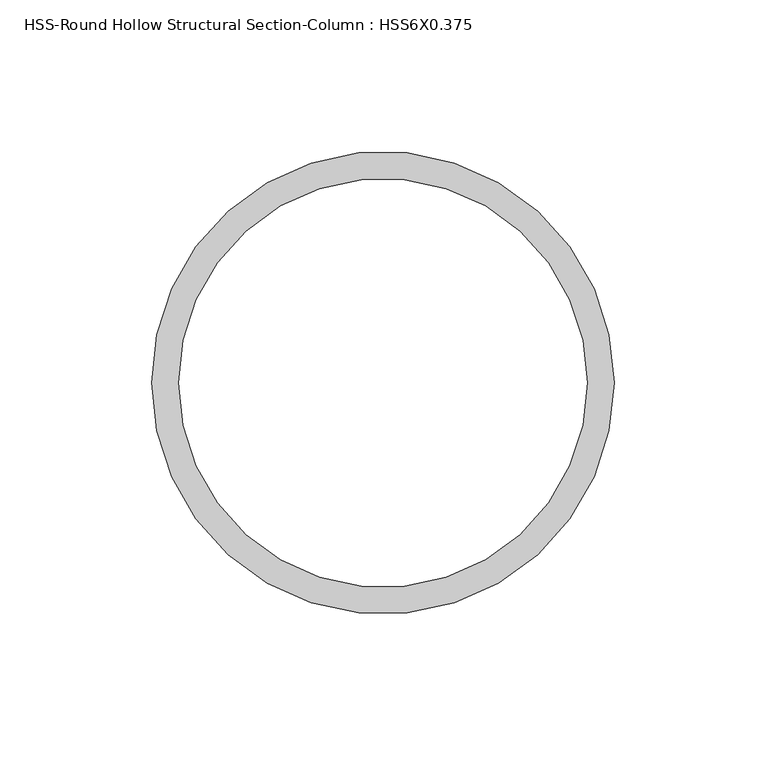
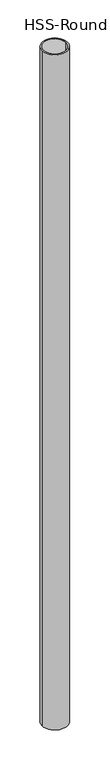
"""IFC4 building model written with IfcOpenShell, lengths in millimetres: column geometry, HSS-Round Hollow Structural Section-Column : HSS6X0.375."""

from ifc_helpers import new_model, si_unit, point, frame, origin, origin_2d, place, context, project, spatial, circle_curve, trimmed, segment, composite_curve, outline, extrude, source, transform, mapped, element, save


def hss_round_hollow_structural_section_column_hss6x0_375_0e3342be(model_context):
    return source(origin(), model_context, "Body", "SweptSolid", [
        extrude(outline(composite_curve([segment(trimmed(circle_curve(origin_2d(), 76.2), [point((-76.2, 0.0))], [point((76.2, 0.0))], False, "CARTESIAN"), True, "CONTINUOUS"), segment(trimmed(circle_curve(origin_2d(), 76.2), [point((76.2, 0.0))], [point((-76.2, 0.0))], False, "CARTESIAN"), True, "CONTINUOUS")], self_intersect=False), holes=[composite_curve([segment(trimmed(circle_curve(origin_2d(), 67.3354), [point((-67.3354, 0.0))], [point((67.3354, 0.0))], True, "CARTESIAN"), True, "CONTINUOUS"), segment(trimmed(circle_curve(origin_2d(), 67.3354), [point((67.3354, 0.0))], [point((-67.3354, 0.0))], True, "CARTESIAN"), True, "CONTINUOUS")], self_intersect=False)]), frame((0.0, 0.0, 45110.4), z_axis=(0.0, 0.0, 1.0), x_axis=(1.0, 0.0, 0.0)), (0.0, 0.0, 1.0), 4267.6),
    ])


if __name__ == "__main__":
    model = new_model("IFC4")
    model_context = context("Model", 3, world=origin())
    ifc_project = project(units=[si_unit("LENGTHUNIT", "METRE", prefix="MILLI")], contexts=[model_context])
    site = spatial("IfcSite", under=ifc_project)
    building = spatial("IfcBuilding", under=site)
    placement = place(None, origin())
    hss_round_hollow_structural_section_column_hss6x0_375_shape = hss_round_hollow_structural_section_column_hss6x0_375_0e3342be(model_context)
    element("IfcColumn", 1, ObjectType="HSS-Round Hollow Structural Section-Column : HSS6X0.375", at=placement, inside=building, context=model_context, shape_type="MappedRepresentation", body=[
        mapped(hss_round_hollow_structural_section_column_hss6x0_375_shape, transform((0.0, 0.0, 0.0), x_axis=(1.0, 0.0, 0.0), y_axis=(0.0, 1.0, 0.0), z_axis=(0.0, 0.0, 1.0))),
    ])
    save(model, "model.ifc")
